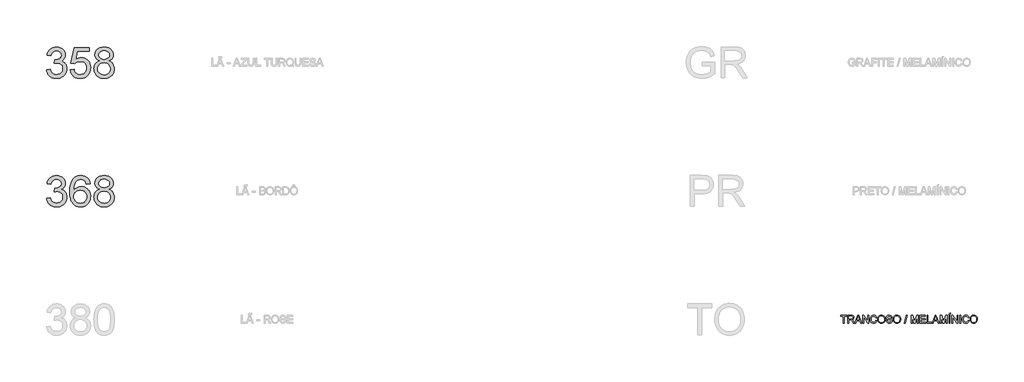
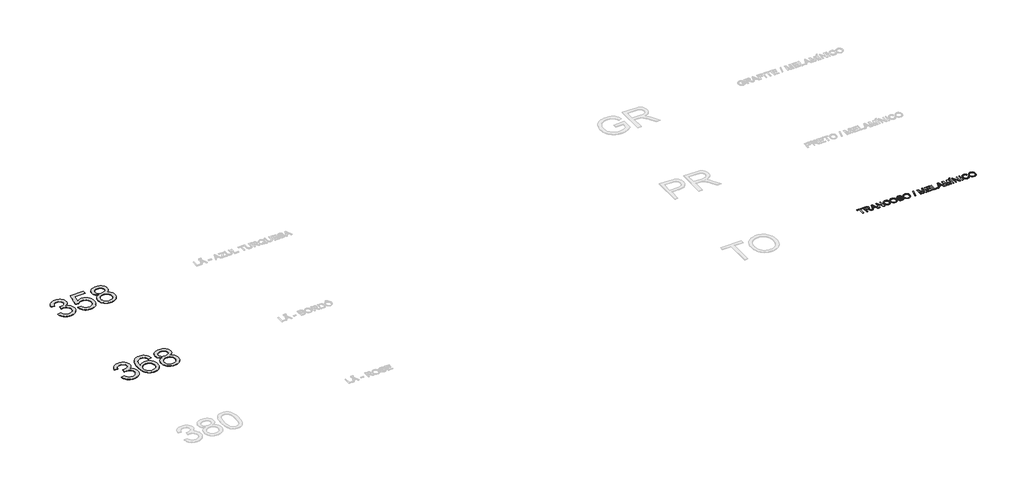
# One storey, part 25 of 67: 3 proxies.
"""IFC4 building model written with IfcOpenShell, lengths in millimetres."""

from ifc_helpers import new_model, si_unit, origin, origin_with_axes, place, context, project, spatial, polyline, outline, extrude, element, save

model = new_model("IFC4")

# Units and contexts
model_context = context("Model", 3, world=origin())
ifc_project = project(units=[si_unit("LENGTHUNIT", "METRE", prefix="MILLI")], contexts=[model_context])

# Site, building, storey
site = spatial("IfcSite", under=ifc_project)
building = spatial("IfcBuilding", under=site)
storey = spatial("IfcBuildingStorey", under=building, Name="Marelli - Linha COLAB - Planta Baixa", Elevation=0.0)

# Proxies
placement = place(None, origin())
element("IfcBuildingElementProxy", 1, Name="1200mm Arial", ObjectType="1200mm Arial", at=placement, inside=storey, context=model_context, shape_type="SweptSolid", body=[
    extrude(outline(polyline([(-181.1313792, -122668.6139517), (-30.446914, -122649.7783935), (-15.5384961, -122700.9691731), (3.287865, -122744.4712191), (26.0321693, -122780.2845313), (52.6944169, -122808.4091098), (83.8816131, -122829.6542951), (120.200763, -122844.8294274), (161.6518669, -122853.9345067), (208.2349245, -122856.9695332), (262.8286126, -122852.7940725), (311.5361887, -122840.2676906), (354.357653, -122819.3903874), (391.2930053, -122790.1621629), (421.0362646, -122754.7719149), (442.2814498, -122715.4085415), (455.028561, -122672.0720424), (459.277598, -122624.7624178), (455.0653492, -122579.7060705), (442.4286026, -122538.7148192), (421.3673584, -122501.7886639), (391.8816165, -122468.9276047), (355.9027574, -122441.9526574), (315.3621615, -122422.6848379), (270.2598289, -122411.1241462), (220.5957595, -122407.2705823), (172.9918294, -122411.3908606), (114.9400505, -122423.7516957), (131.7154695, -122273.0672304), (155.8485284, -122274.833064), (202.1832657, -122272.1291314), (246.12677, -122264.0173334), (287.6790413, -122250.49767), (326.8400797, -122231.5701414), (360.0598239, -122207.0324123), (383.7882126, -122176.6821477), (398.0252458, -122140.5193476), (402.7709235, -122098.5440119), (399.3312269, -122064.4689421), (389.0121369, -122033.465687), (371.8136536, -122005.5342465), (347.7357771, -121980.6746207), (318.231641, -121960.266367), (284.7543795, -121945.6890429), (247.3039924, -121936.9426485), (205.8804797, -121934.0271837), (164.5673317, -121936.9702397), (126.8594272, -121945.7994075), (92.7567662, -121960.5146873), (62.2593488, -121981.1160791), (36.121333, -122007.6035827), (15.096877, -122039.9771983), (-0.8140193, -122078.2369258), (-11.6113558, -122122.3827652), (-162.2958211, -122103.5472071), (-144.4351502, -122031.6078829), (-117.9292524, -121968.2402092), (-82.7781278, -121913.4441861), (-38.9817763, -121867.2198134), (12.0802447, -121830.5235844), (69.0283775, -121804.3119922), (131.8626223, -121788.5850369), (200.582979, -121783.3427185), (248.9134761, -121785.9270895), (295.3125927, -121793.6802025), (339.7803289, -121806.6020576), (382.3166846, -121824.6926547), (421.4409348, -121847.2622151), (455.6723544, -121873.6209601), (485.0109436, -121903.7688896), (509.4567021, -121937.7060036), (528.7061275, -121974.0803359), (542.4557171, -122011.5399201), (550.7054709, -122050.0847561), (553.4553888, -122089.7148441), (550.8434266, -122126.9812902), (543.0075401, -122162.5554791), (529.9477293, -122196.4374109), (511.6639941, -122228.6270854), (488.2666992, -122258.3703447), (459.8662092, -122284.9130307), (426.462524, -122308.2551433), (388.0556437, -122328.3966825), (438.2715361, -122344.1052437), (482.3805873, -122366.5092572), (520.3827974, -122395.608723), (552.2781664, -122431.4036412), (577.5148712, -122473.0110948), (595.541089, -122519.5481672), (606.3568197, -122571.0148583), (609.9620632, -122627.4111682), (608.1594414, -122666.3882656), (602.7515761, -122703.8570468), (593.7384672, -122739.8175118), (581.1201148, -122774.2696607), (564.8965188, -122807.2134933), (545.0676793, -122838.6490098), (521.6335962, -122868.5762101), (494.5942695, -122896.9950943), (464.8004265, -122922.9307749), (433.102794, -122945.4083648), (399.5013723, -122964.427864), (363.9961612, -122979.9892724), (326.5871609, -122992.09259), (287.2743712, -123000.7378169), (246.0577921, -123005.924953), (202.9374238, -123007.6539984), (126.7122744, -123001.7494924), (91.1380854, -122994.3688599), (57.2561537, -122984.0359743), (25.0664791, -122970.7508358), (-5.4309383, -122954.5134442), (-34.2360985, -122935.3237996), (-61.3490016, -122913.1819021), (-86.2040289, -122888.6947568), (-108.2355619, -122862.469369), (-127.4436005, -122834.5057389), (-143.8281449, -122804.8038663), (-157.3891949, -122773.3637513), (-168.1267507, -122740.1853938), (-181.1313792, -122668.6139517)])), origin_with_axes(), (0.0, 0.0, 1.0), 10.0),
    extrude(outline(polyline([(741.8109703, -122668.6139517), (892.4954355, -122649.7783935), (903.7526246, -122698.2192552), (920.1601616, -122740.2405761), (941.7180465, -122775.8423562), (968.4262793, -122805.0245955), (1000.2296778, -122827.7505057), (1037.0730596, -122843.9832988), (1078.9564248, -122853.7229746), (1125.8797733, -122856.9695332), (1183.2693645, -122852.4537817), (1233.889927, -122838.9065272), (1277.7414609, -122816.3277698), (1314.823966, -122784.7175093), (1344.3097079, -122745.6392444), (1365.3709521, -122700.6564734), (1378.0076987, -122649.7691965), (1382.2199475, -122592.9774135), (1378.2744131, -122539.3034304), (1366.4378099, -122491.5891356), (1346.7101379, -122449.8345291), (1319.0913971, -122414.039611), (1283.489617, -122385.3264213), (1239.8128272, -122364.817), (1188.0610275, -122352.5113473), (1128.234218, -122348.4094631), (1089.9468994, -122350.0465379), (1055.1360656, -122354.9577626), (1023.8017166, -122363.143137), (995.9438526, -122374.6026611), (948.6710162, -122404.6954083), (911.3309937, -122442.5872538), (760.6465284, -122423.7516957), (892.4954355, -121802.1782766), (1476.3977383, -121802.1782766), (1476.3977383, -121952.8627418), (1014.3379523, -121952.8627418), (949.8850268, -122284.8394543), (1003.0623692, -122246.7268796), (1057.5272986, -122219.503612), (1113.2798149, -122203.1696514), (1170.3199183, -122197.7249978), (1207.7588091, -122199.4126565), (1243.7031793, -122204.4756324), (1278.1530289, -122212.9139257), (1311.1083578, -122224.7275363), (1342.5691662, -122239.9164642), (1372.535454, -122258.4807093), (1401.0072211, -122280.4202718), (1427.9844677, -122305.7351516), (1452.5750798, -122333.7033803), (1473.8869436, -122363.6029895), (1491.9200592, -122395.4339791), (1506.6744265, -122429.1963492), (1518.1500455, -122464.8900998), (1526.3469162, -122502.5152308), (1531.2650386, -122542.0717424), (1532.9044127, -122583.5596344), (1526.9999067, -122661.6241938), (1519.6192742, -122698.6147284), (1509.2863886, -122734.2440996), (1496.0012501, -122768.5123075), (1479.7638585, -122801.4193519), (1460.5742139, -122832.965233), (1438.4323164, -122863.1499507), (1408.4315397, -122897.0180869), (1375.8188008, -122926.3704716), (1340.5940997, -122951.2071048), (1302.7574365, -122971.5279865), (1262.3088112, -122987.3331167), (1219.2482236, -122998.6224954), (1173.5756739, -123005.3961227), (1125.2911621, -123007.6539984), (1047.5301053, -123001.8506599), (1011.470772, -122994.5964869), (977.2922354, -122984.4406445), (944.9944955, -122971.383133), (914.5775523, -122955.4239522), (886.0414058, -122936.5631021), (859.386056, -122914.8005828), (835.0483627, -122890.6422321), (813.4651859, -122864.5938875), (794.6365255, -122836.6555493), (778.5623816, -122806.8272173), (765.2427541, -122775.1088915), (754.6776431, -122741.500572), (741.8109703, -122668.6139517)])), origin_with_axes(), (0.0, 0.0, 1.0), 10.0),
    extrude(outline(polyline([(1884.3052945, -122324.8650154), (1840.9595984, -122306.7652212), (1803.628773, -122285.1337599), (1772.3128181, -122259.9706314), (1747.0117339, -122231.2758358), (1727.5047911, -122199.3252845), (1713.5712606, -122164.3948891), (1705.2111422, -122126.4846495), (1702.4244361, -122085.5945657), (1708.494489, -122024.1398784), (1716.0820552, -121995.3301197), (1726.7046478, -121967.7987509), (1740.3622669, -121941.545772), (1757.0549124, -121916.571183), (1799.5452828, -121870.4571749), (1824.8325715, -121850.0397242), (1852.134014, -121832.3446002), (1881.4496105, -121817.371803), (1912.7793609, -121805.1213326), (1981.4813235, -121788.787372), (2058.2399018, -121783.3427185), (2135.3663621, -121788.9161307), (2204.5833595, -121805.6363674), (2236.2258096, -121818.1765449), (2265.890894, -121833.5034285), (2293.5786127, -121851.6170183), (2319.2889656, -121872.5173141), (2362.5518882, -121919.5326331), (2379.5480364, -121944.8613085), (2393.4539758, -121971.4039944), (2404.2697065, -121999.1606909), (2411.9952284, -122028.1313981), (2416.6305415, -122058.3161158), (2418.1756459, -122089.7148441), (2415.425728, -122129.160991), (2407.1759743, -122165.9767817), (2393.4263847, -122200.1622161), (2374.1769593, -122231.7172942), (2349.3357276, -122260.2189518), (2318.810719, -122285.2441245), (2282.6019336, -122306.7928124), (2240.7093714, -122324.8650154), (2290.235485, -122345.9354566), (2333.4524224, -122372.6528865), (2370.3601836, -122405.0173051), (2400.9587685, -122443.0287122), (2424.9722658, -122485.8409794), (2442.1247638, -122532.607978), (2452.4162626, -122583.3297081), (2455.8467622, -122638.0061697), (2454.145308, -122676.3670647), (2449.0409453, -122713.1644613), (2440.5336742, -122748.3983594), (2428.6234946, -122782.068759), (2413.3104065, -122814.1756601), (2394.59441, -122844.7190628), (2372.4755051, -122873.6989669), (2346.9536917, -122901.1153726), (2318.6543692, -122926.085363), (2288.202937, -122947.7260214), (2255.5993952, -122966.0373477), (2220.8437437, -122981.019342), (2183.9359825, -122992.6720042), (2144.8761117, -123000.9953343), (2103.6641312, -123005.9893324), (2060.300041, -123007.6539984), (2016.9359508, -123005.9824346), (1975.7239703, -123000.9677432), (1936.6640995, -122992.6099241), (1899.7563383, -122980.9089774), (1865.0006868, -122965.864903), (1832.397145, -122947.4777011), (1801.9457128, -122925.7473715), (1773.6463904, -122900.6739142), (1748.124577, -122873.1034579), (1726.005672, -122843.8821312), (1707.2896755, -122813.009934), (1691.9765874, -122780.4868664), (1680.0664078, -122746.3129283), (1671.5591367, -122710.4881198), (1666.454774, -122673.0124408), (1664.7533198, -122633.8858913), (1668.3217751, -122576.7170293), (1679.0271412, -122524.4042096), (1696.869418, -122476.9474322), (1721.8486054, -122434.3466971), (1753.4128806, -122397.3745566), (1791.0104205, -122366.8035628), (1834.6412252, -122342.6337157), (1884.3052945, -122324.8650154)]), holes=[polyline([(1853.1089013, -122090.0091496), (1856.4474304, -122124.553269), (1866.4630178, -122155.7864504), (1883.1556633, -122183.7086938), (1906.525367, -122208.3199993), (1936.2778234, -122228.4063562), (1972.1187268, -122242.753754), (2014.0480772, -122251.3621927), (2062.0658746, -122254.2316723), (2108.8972526, -122251.3805868), (2149.916095, -122242.8273304), (2185.122402, -122228.5719031), (2214.5161734, -122208.6143049), (2237.6927391, -122184.5180342), (2254.2474289, -122157.8465896), (2264.1802427, -122128.5999709), (2267.4911807, -122096.7781784), (2264.0698781, -122063.714784), (2253.8059705, -122033.3921106), (2236.6994577, -122005.810158), (2212.7503398, -121980.9689263), (2182.6943808, -121960.4319139), (2147.2673447, -121945.7626193), (2106.4692314, -121936.9610426), (2060.300041, -121934.0271837), (2013.7721657, -121936.8966633), (1972.7809144, -121945.5051019), (1937.3262871, -121959.8524998), (1907.4082838, -121979.9388567), (1883.652304, -122004.0351274), (1866.6837469, -122030.4122664), (1856.5026127, -122059.0702739), (1853.1089013, -122090.0091496)]), polyline([(1815.437785, -122628.5883906), (1817.0104805, -122657.6418712), (1821.7285671, -122686.2354992), (1840.6009135, -122742.0431979), (1855.6013018, -122767.9328933), (1875.4393384, -122790.7139859), (1900.1150233, -122810.3864756), (1929.6283563, -122826.9503624), (1961.8180309, -122840.0837496), (1994.5227403, -122849.4647405), (2027.7424844, -122855.093335), (2061.4772634, -122856.9695332), (2115.9605869, -122853.0239988), (2164.0427636, -122841.1873956), (2205.7237937, -122821.4597236), (2241.003677, -122793.8409828), (2269.0730733, -122760.133795), (2289.122642, -122722.140782), (2301.1523833, -122679.8619437), (2305.162297, -122633.2972801), (2301.0236246, -122585.9876555), (2288.6076072, -122542.9454621), (2267.914245, -122504.1706998), (2238.9435379, -122469.6633687), (2202.7071613, -122441.336455), (2160.2167909, -122421.1029453), (2111.4724265, -122408.9628395), (2056.4740683, -122404.9161375), (2002.7908881, -122408.9076572), (1955.3433078, -122420.8822161), (1914.1313273, -122440.8398143), (1879.1549466, -122468.7804519), (1851.2786884, -122502.7175659), (1831.3670754, -122540.6645937), (1819.4201076, -122582.6215353), (1815.437785, -122628.5883906)])]), origin_with_axes(), (0.0, 0.0, 1.0), 10.0),
])
element("IfcBuildingElementProxy", 2, Name="1200mm Arial", ObjectType="1200mm Arial", at=placement, inside=storey, context=model_context, shape_type="SweptSolid", body=[
    extrude(outline(polyline([(-181.1313792, -127668.6139517), (-30.446914, -127649.7783935), (-15.5384961, -127700.9691731), (3.287865, -127744.4712191), (26.0321693, -127780.2845313), (52.6944169, -127808.4091098), (83.8816131, -127829.6542951), (120.200763, -127844.8294274), (161.6518669, -127853.9345067), (208.2349245, -127856.9695332), (262.8286126, -127852.7940725), (311.5361887, -127840.2676906), (354.357653, -127819.3903874), (391.2930053, -127790.1621629), (421.0362646, -127754.7719149), (442.2814498, -127715.4085415), (455.028561, -127672.0720424), (459.277598, -127624.7624178), (455.0653492, -127579.7060705), (442.4286026, -127538.7148192), (421.3673584, -127501.7886639), (391.8816165, -127468.9276047), (355.9027574, -127441.9526574), (315.3621615, -127422.6848379), (270.2598289, -127411.1241462), (220.5957595, -127407.2705823), (172.9918294, -127411.3908606), (114.9400505, -127423.7516957), (131.7154695, -127273.0672304), (155.8485284, -127274.833064), (202.1832657, -127272.1291314), (246.12677, -127264.0173334), (287.6790413, -127250.49767), (326.8400797, -127231.5701414), (360.0598239, -127207.0324123), (383.7882126, -127176.6821477), (398.0252458, -127140.5193476), (402.7709235, -127098.5440119), (399.3312269, -127064.4689421), (389.0121369, -127033.465687), (371.8136536, -127005.5342465), (347.7357771, -126980.6746207), (318.231641, -126960.266367), (284.7543795, -126945.6890429), (247.3039924, -126936.9426485), (205.8804797, -126934.0271837), (164.5673317, -126936.9702397), (126.8594272, -126945.7994075), (92.7567662, -126960.5146873), (62.2593488, -126981.1160791), (36.121333, -127007.6035827), (15.096877, -127039.9771983), (-0.8140193, -127078.2369258), (-11.6113558, -127122.3827652), (-162.2958211, -127103.5472071), (-144.4351502, -127031.6078829), (-117.9292524, -126968.2402092), (-82.7781278, -126913.4441861), (-38.9817763, -126867.2198134), (12.0802447, -126830.5235844), (69.0283775, -126804.3119922), (131.8626223, -126788.5850369), (200.582979, -126783.3427185), (248.9134761, -126785.9270895), (295.3125927, -126793.6802025), (339.7803289, -126806.6020576), (382.3166846, -126824.6926547), (421.4409348, -126847.2622151), (455.6723544, -126873.6209601), (485.0109436, -126903.7688896), (509.4567021, -126937.7060036), (528.7061275, -126974.0803359), (542.4557171, -127011.5399201), (550.7054709, -127050.0847561), (553.4553888, -127089.7148441), (550.8434266, -127126.9812902), (543.0075401, -127162.5554791), (529.9477293, -127196.4374109), (511.6639941, -127228.6270854), (488.2666992, -127258.3703447), (459.8662092, -127284.9130307), (426.462524, -127308.2551433), (388.0556437, -127328.3966825), (438.2715361, -127344.1052437), (482.3805873, -127366.5092572), (520.3827974, -127395.608723), (552.2781664, -127431.4036412), (577.5148712, -127473.0110948), (595.541089, -127519.5481672), (606.3568197, -127571.0148583), (609.9620632, -127627.4111682), (608.1594414, -127666.3882656), (602.7515761, -127703.8570468), (593.7384672, -127739.8175118), (581.1201148, -127774.2696607), (564.8965188, -127807.2134933), (545.0676793, -127838.6490098), (521.6335962, -127868.5762101), (494.5942695, -127896.9950943), (464.8004265, -127922.9307749), (433.102794, -127945.4083648), (399.5013723, -127964.427864), (363.9961612, -127979.9892724), (326.5871609, -127992.09259), (287.2743712, -128000.7378169), (246.0577921, -128005.924953), (202.9374238, -128007.6539984), (126.7122744, -128001.7494924), (91.1380854, -127994.3688599), (57.2561537, -127984.0359743), (25.0664791, -127970.7508358), (-5.4309383, -127954.5134442), (-34.2360985, -127935.3237996), (-61.3490016, -127913.1819021), (-86.2040289, -127888.6947568), (-108.2355619, -127862.469369), (-127.4436005, -127834.5057389), (-143.8281449, -127804.8038663), (-157.3891949, -127773.3637513), (-168.1267507, -127740.1853938), (-181.1313792, -127668.6139517)])), origin_with_axes(), (0.0, 0.0, 1.0), 10.0),
    extrude(outline(polyline([(1514.0688546, -127103.5472071), (1363.3843893, -127122.3827652), (1352.3111413, -127082.0812927), (1339.1041777, -127047.7027202), (1323.7634985, -127019.2470479), (1306.2891037, -126996.7142757), (1273.897094, -126969.2886729), (1237.936629, -126949.6989567), (1198.4077086, -126937.9451269), (1155.3103329, -126934.0271837), (1119.7729321, -126936.3080521), (1085.265601, -126943.1506572), (1051.7883394, -126954.554999), (1019.3411475, -126970.5210776), (989.7358439, -126996.6315022), (962.7241084, -127028.1681863), (938.305941, -127065.1311297), (916.4813416, -127107.5203326), (898.4091386, -127158.1316981), (885.2481602, -127219.7611293), (876.9984065, -127292.4086263), (873.6598774, -127376.0741891), (902.3822641, -127338.2099347), (934.1028892, -127305.5512106), (968.8217525, -127278.0980167), (1006.538854, -127255.8503531), (1046.2425184, -127238.6610669), (1086.92107, -127226.3830053), (1128.5745089, -127219.0161683), (1171.2028351, -127216.560556), (1208.1013992, -127218.2390176), (1243.6020117, -127223.2744024), (1277.7046727, -127231.6667104), (1310.409382, -127243.4159416), (1341.7161398, -127258.5220961), (1371.624946, -127276.9851737), (1400.1358007, -127298.8051745), (1427.2487037, -127323.9820986), (1452.0117605, -127351.81697), (1473.4730764, -127381.6108131), (1491.6326514, -127413.3636278), (1506.4904855, -127447.0754142), (1518.0465786, -127482.7461721), (1526.3009309, -127520.3759017), (1531.2535423, -127559.9646029), (1532.9044127, -127601.5122757), (1529.7958099, -127656.4462547), (1520.4700013, -127709.4120649), (1504.926987, -127760.4097065), (1483.166767, -127809.4391794), (1455.9618934, -127854.6702707), (1424.0849186, -127894.2727675), (1387.5358423, -127928.2466698), (1346.3146648, -127956.5919775), (1301.3043027, -127978.9316116), (1253.3876728, -127994.8884932), (1202.5647752, -128004.4626221), (1148.8356098, -128007.6539984), (1102.8342655, -128005.5386769), (1059.0080236, -127999.1927125), (1017.3568839, -127988.6161052), (977.8808466, -127973.8088549), (940.5799116, -127954.7709616), (905.4540788, -127931.5024254), (872.5033483, -127904.0032463), (841.7277202, -127872.2734242), (813.895148, -127835.6875598), (789.7735854, -127793.6202536), (769.3630325, -127746.0715057), (752.6634892, -127693.0413161), (739.6749555, -127634.5296848), (730.3974314, -127570.5366117), (724.830917, -127501.062097), (722.9754121, -127426.1061404), (725.0355513, -127342.1784618), (731.2159688, -127264.1828803), (741.5166647, -127192.1193959), (755.9376389, -127125.9880088), (774.4788915, -127065.7887188), (797.1404224, -127011.521526), (823.9222316, -126963.1864303), (854.8243192, -126920.7834319), (884.8388915, -126888.5707647), (917.3458643, -126860.6531198), (952.3452376, -126837.0304971), (989.8370114, -126817.7028968), (1029.8211858, -126802.6703188), (1072.2977607, -126791.9327631), (1117.266736, -126785.4902296), (1164.728112, -126783.3427185), (1234.1290503, -126788.6586133), (1296.944901, -126804.6062978), (1353.175664, -126831.1857719), (1402.8213392, -126868.3970358), (1444.5391575, -126914.9892904), (1476.9863495, -126969.7117372), (1500.1629152, -127032.5643761), (1514.0688546, -127103.5472071)]), holes=[polyline([(873.6598774, -127599.157831), (875.8395782, -127632.9202011), (882.3786807, -127665.9284131), (893.2771848, -127698.182467), (908.5350905, -127729.6823629), (927.4074369, -127758.9473756), (949.1492628, -127784.4967801), (973.7605683, -127806.3305766), (1001.2413533, -127824.4487648), (1031.4168739, -127838.676601), (1064.1123863, -127848.8393411), (1099.3278903, -127854.9369852), (1137.0633859, -127856.9695332), (1189.440585, -127852.7572843), (1236.5018892, -127840.1205378), (1278.2472986, -127819.0592936), (1314.6768132, -127789.5735517), (1344.2269344, -127752.8589286), (1365.3341639, -127710.1110407), (1377.9985016, -127661.3298882), (1382.2199475, -127606.5154709), (1378.0536839, -127553.8439662), (1365.5548931, -127507.0769676), (1344.7235751, -127466.214475), (1315.55973, -127431.2564884), (1279.0198508, -127403.2514715), (1236.0604308, -127383.247888), (1186.68147, -127371.2457379), (1130.8829684, -127367.2450212), (1079.2047451, -127371.2457379), (1031.5916179, -127383.247888), (988.0435867, -127403.2514715), (948.5606516, -127431.2564884), (915.7915629, -127465.7546225), (892.3850709, -127505.2375576), (878.3411758, -127549.7052938), (873.6598774, -127599.157831)])]), origin_with_axes(), (0.0, 0.0, 1.0), 10.0),
    extrude(outline(polyline([(1884.3052945, -127324.8650154), (1840.9595984, -127306.7652212), (1803.628773, -127285.1337599), (1772.3128181, -127259.9706314), (1747.0117339, -127231.2758358), (1727.5047911, -127199.3252845), (1713.5712606, -127164.3948891), (1705.2111422, -127126.4846495), (1702.4244361, -127085.5945657), (1708.494489, -127024.1398784), (1716.0820552, -126995.3301197), (1726.7046478, -126967.7987509), (1740.3622669, -126941.545772), (1757.0549124, -126916.571183), (1799.5452828, -126870.4571749), (1824.8325715, -126850.0397242), (1852.134014, -126832.3446002), (1881.4496105, -126817.371803), (1912.7793609, -126805.1213326), (1981.4813235, -126788.787372), (2058.2399018, -126783.3427185), (2135.3663621, -126788.9161307), (2204.5833595, -126805.6363674), (2236.2258096, -126818.1765449), (2265.890894, -126833.5034285), (2293.5786127, -126851.6170182), (2319.2889656, -126872.5173141), (2362.5518882, -126919.5326331), (2379.5480364, -126944.8613085), (2393.4539758, -126971.4039944), (2404.2697065, -126999.1606909), (2411.9952284, -127028.1313981), (2416.6305415, -127058.3161158), (2418.1756459, -127089.7148441), (2415.425728, -127129.160991), (2407.1759743, -127165.9767817), (2393.4263847, -127200.1622161), (2374.1769593, -127231.7172942), (2349.3357276, -127260.2189518), (2318.810719, -127285.2441245), (2282.6019336, -127306.7928124), (2240.7093714, -127324.8650154), (2290.235485, -127345.9354566), (2333.4524224, -127372.6528865), (2370.3601836, -127405.0173051), (2400.9587685, -127443.0287122), (2424.9722658, -127485.8409794), (2442.1247638, -127532.607978), (2452.4162626, -127583.3297081), (2455.8467622, -127638.0061697), (2454.145308, -127676.3670647), (2449.0409453, -127713.1644613), (2440.5336742, -127748.3983594), (2428.6234946, -127782.068759), (2413.3104065, -127814.1756601), (2394.59441, -127844.7190628), (2372.4755051, -127873.6989669), (2346.9536917, -127901.1153726), (2318.6543692, -127926.085363), (2288.202937, -127947.7260214), (2255.5993952, -127966.0373477), (2220.8437437, -127981.019342), (2183.9359825, -127992.6720042), (2144.8761117, -128000.9953343), (2103.6641312, -128005.9893324), (2060.300041, -128007.6539984), (2016.9359508, -128005.9824346), (1975.7239703, -128000.9677432), (1936.6640995, -127992.6099241), (1899.7563383, -127980.9089774), (1865.0006868, -127965.864903), (1832.397145, -127947.4777011), (1801.9457128, -127925.7473715), (1773.6463904, -127900.6739142), (1748.124577, -127873.1034579), (1726.005672, -127843.8821312), (1707.2896755, -127813.009934), (1691.9765874, -127780.4868664), (1680.0664078, -127746.3129283), (1671.5591367, -127710.4881198), (1666.454774, -127673.0124408), (1664.7533198, -127633.8858913), (1668.3217751, -127576.7170293), (1679.0271412, -127524.4042096), (1696.869418, -127476.9474322), (1721.8486054, -127434.3466971), (1753.4128806, -127397.3745566), (1791.0104205, -127366.8035628), (1834.6412252, -127342.6337157), (1884.3052945, -127324.8650154)]), holes=[polyline([(1853.1089013, -127090.0091496), (1856.4474304, -127124.553269), (1866.4630178, -127155.7864504), (1883.1556633, -127183.7086938), (1906.525367, -127208.3199993), (1936.2778234, -127228.4063562), (1972.1187268, -127242.753754), (2014.0480772, -127251.3621927), (2062.0658746, -127254.2316723), (2108.8972526, -127251.3805868), (2149.916095, -127242.8273304), (2185.122402, -127228.5719031), (2214.5161734, -127208.6143049), (2237.6927391, -127184.5180342), (2254.2474289, -127157.8465896), (2264.1802427, -127128.5999709), (2267.4911807, -127096.7781784), (2264.0698781, -127063.714784), (2253.8059705, -127033.3921106), (2236.6994577, -127005.810158), (2212.7503398, -126980.9689263), (2182.6943808, -126960.4319139), (2147.2673447, -126945.7626193), (2106.4692314, -126936.9610426), (2060.300041, -126934.0271837), (2013.7721657, -126936.8966633), (1972.7809144, -126945.5051019), (1937.3262871, -126959.8524998), (1907.4082838, -126979.9388567), (1883.652304, -127004.0351274), (1866.6837469, -127030.4122664), (1856.5026127, -127059.0702739), (1853.1089013, -127090.0091496)]), polyline([(1815.437785, -127628.5883906), (1817.0104805, -127657.6418712), (1821.7285671, -127686.2354992), (1840.6009135, -127742.0431979), (1855.6013018, -127767.9328933), (1875.4393384, -127790.7139859), (1900.1150233, -127810.3864756), (1929.6283563, -127826.9503624), (1961.8180309, -127840.0837496), (1994.5227403, -127849.4647405), (2027.7424844, -127855.093335), (2061.4772634, -127856.9695332), (2115.9605869, -127853.0239988), (2164.0427636, -127841.1873956), (2205.7237937, -127821.4597236), (2241.003677, -127793.8409828), (2269.0730733, -127760.133795), (2289.122642, -127722.140782), (2301.1523833, -127679.8619437), (2305.162297, -127633.2972801), (2301.0236246, -127585.9876555), (2288.6076072, -127542.9454621), (2267.914245, -127504.1706998), (2238.9435379, -127469.6633687), (2202.7071613, -127441.336455), (2160.2167909, -127421.1029453), (2111.4724265, -127408.9628395), (2056.4740683, -127404.9161375), (2002.7908881, -127408.9076572), (1955.3433078, -127420.8822161), (1914.1313273, -127440.8398143), (1879.1549466, -127468.7804519), (1851.2786884, -127502.7175659), (1831.3670754, -127540.6645937), (1819.4201076, -127582.6215353), (1815.437785, -127628.5883906)])]), origin_with_axes(), (0.0, 0.0, 1.0), 10.0),
])
element("IfcBuildingElementProxy", 3, Name="300mm Arial", ObjectType="300mm Arial", at=placement, inside=storey, context=model_context, shape_type="SweptSolid", body=[
    extrude(outline(polyline([(30833.2139715, -132530.5663201), (30833.2139715, -132266.8685059), (30734.3272912, -132266.8685059), (30734.3272912, -132229.1973896), (30969.7717681, -132229.1973896), (30969.7717681, -132266.8685059), (30870.8850878, -132266.8685059), (30870.8850878, -132530.5663201), (30833.2139715, -132530.5663201)])), origin_with_axes(), (0.0, 0.0, 1.0), 10.0),
    extrude(outline(polyline([(31012.1517739, -132530.5663201), (31012.1517739, -132229.1973896), (31142.0141182, -132229.1973896), (31176.9169225, -132231.2299376), (31202.3099772, -132237.3275817), (31220.8696239, -132248.5847708), (31235.272204, -132266.0959537), (31244.5152391, -132287.8101885), (31247.5962508, -132311.6765329), (31242.4918882, -132341.3646099), (31227.1788001, -132365.9759154), (31215.5790209, -132376.0052983), (31201.1971342, -132384.0205273), (31164.0870379, -132394.0085235), (31185.4977701, -132410.1217548), (31216.0319757, -132448.8965171), (31266.2846562, -132530.5663201), (31222.5066988, -132530.5663201), (31183.2904781, -132468.0999573), (31154.9635645, -132426.750021), (31135.0611485, -132407.2154871), (31117.1452954, -132400.0417882), (31095.2931048, -132398.717413), (31049.8228902, -132398.717413), (31049.8228902, -132530.5663201), (31012.1517739, -132530.5663201)]), holes=[polyline([(31049.8228902, -132361.0462967), (31134.1414435, -132361.0462967), (31158.3572759, -132359.7127245), (31177.1468488, -132355.7120078), (31191.2919115, -132348.7774322), (31201.5742132, -132338.6422832), (31207.8374042, -132326.3826157), (31209.9251345, -132313.0744845), (31205.9428119, -132294.6987789), (31193.9958441, -132279.8915286), (31173.4404377, -132270.1242616), (31143.632799, -132266.8685059), (31049.8228902, -132266.8685059), (31049.8228902, -132361.0462967)])]), origin_with_axes(), (0.0, 0.0, 1.0), 10.0),
    extrude(outline(polyline([(31278.424762, -132530.5663201), (31398.7221745, -132229.1973896), (31430.8014844, -132229.1973896), (31551.0988969, -132530.5663201), (31511.294065, -132530.5663201), (31476.7867338, -132436.3885293), (31352.6633487, -132436.3885293), (31318.2295939, -132530.5663201), (31278.424762, -132530.5663201)]), holes=[polyline([(31366.4957117, -132398.717413), (31463.0279472, -132398.717413), (31435.878256, -132324.6259792), (31414.7618294, -132266.8685059), (31395.9998477, -132318.1512561), (31366.4957117, -132398.717413)])]), origin_with_axes(), (0.0, 0.0, 1.0), 10.0),
    extrude(outline(polyline([(31591.3451871, -132530.5663201), (31591.3451871, -132229.1973896), (31631.6650538, -132229.1973896), (31789.1185477, -132467.9528045), (31789.1185477, -132229.1973896), (31826.789664, -132229.1973896), (31826.789664, -132530.5663201), (31786.4697974, -132530.5663201), (31629.0163034, -132291.7373288), (31629.0163034, -132530.5663201), (31591.3451871, -132530.5663201)])), origin_with_axes(), (0.0, 0.0, 1.0), 10.0),
    extrude(outline(polyline([(32104.6141468, -132423.4390831), (32142.2852631, -132433.1511677), (32134.8310542, -132456.5783531), (32124.9028388, -132477.0486868), (32112.5006171, -132494.5621691), (32097.6243889, -132509.1187997), (32080.6098466, -132520.5622291), (32061.7926826, -132528.7361071), (32041.1728967, -132533.640434), (32018.7504891, -132535.2752096), (31975.0553052, -132530.3271968), (31940.354836, -132515.4831583), (31913.7569677, -132491.2581289), (31894.3695866, -132458.1671434), (31882.5329834, -132419.2636224), (31878.587449, -132377.6009865), (31883.0480182, -132333.6574821), (31896.4297257, -132295.7104543), (31918.0335959, -132264.9647166), (31947.1606529, -132242.6250824), (31981.7047722, -132229.0226457), (32019.5598295, -132224.4885001), (32060.8637805, -132230.3562179), (32078.8325167, -132237.6908652), (32095.0124267, -132247.9593714), (32109.1367961, -132260.8904235), (32120.9389103, -132276.2127086), (32137.5763736, -132314.0309777), (32099.9052573, -132323.0072984), (32086.8454464, -132295.5357104), (32069.0031697, -132276.6909552), (32046.1576978, -132265.7924511), (32018.0883015, -132262.1596164), (31985.7330801, -132266.1879242), (31959.1536059, -132278.2728478), (31938.9844755, -132297.1451941), (31925.8602853, -132321.5357704), (31918.6589953, -132349.1085259), (31916.2585653, -132377.5274101), (31919.1004537, -132412.3290468), (31927.6261189, -132442.421794), (31942.1574577, -132466.6560205), (31963.0163669, -132483.8820949), (31988.0231455, -132494.1735937), (32014.9980928, -132497.6040933), (32046.4428063, -132492.931992), (32072.6452014, -132478.9156879), (32092.4280557, -132455.702334), (32104.6141468, -132423.4390831)])), origin_with_axes(), (0.0, 0.0, 1.0), 10.0),
    extrude(outline(polyline([(32179.9563794, -132383.8549804), (32182.467174, -132348.5061192), (32189.9995579, -132317.213157), (32202.553531, -132289.9760937), (32220.1290933, -132266.7949295), (32241.6731826, -132248.2858666), (32266.1327368, -132235.0651074), (32293.5077558, -132227.1326519), (32323.7982395, -132224.4885001), (32363.3271599, -132229.454907), (32398.7725901, -132244.3541278), (32428.2031498, -132268.1376988), (32449.6874583, -132299.7571563), (32462.8208455, -132337.68579), (32467.1986413, -132380.3968896), (32462.5909193, -132423.6782064), (32448.7677533, -132462.140269), (32426.4924985, -132493.8149087), (32396.52851, -132516.733957), (32361.3865824, -132530.6398965), (32323.5775103, -132535.2752096), (32283.4415847, -132530.1524528), (32247.7938193, -132514.7841825), (32218.4368361, -132490.5591531), (32197.1732568, -132458.8661192), (32184.2605988, -132422.3998164), (32179.9563794, -132383.8549804)]), holes=[polyline([(32217.6274957, -132384.2228624), (32219.5105917, -132409.1974513), (32225.1598796, -132431.3669401), (32234.5753594, -132450.7313286), (32247.7570311, -132467.2906169), (32263.7805913, -132480.5527628), (32281.7217363, -132490.0257242), (32301.5804663, -132495.709501), (32323.3567811, -132497.6040933), (32345.5055765, -132495.6911069), (32365.5988312, -132489.9521478), (32383.6365453, -132480.3872159), (32399.6187187, -132466.9963113), (32412.7038215, -132450.0875351), (32422.0503234, -132429.9689885), (32427.6582246, -132406.6406715), (32429.5275249, -132380.102584), (32426.3269516, -132346.7540812), (32416.7252315, -132317.9305269), (32400.9706851, -132294.358488), (32379.3116326, -132276.7645316), (32353.1828139, -132265.8108452), (32324.0189687, -132262.1596164), (32302.9991112, -132263.9185522), (32283.496767, -132269.1953595), (32265.5119359, -132277.9900385), (32249.0446181, -132290.302589), (32235.2996271, -132306.7262208), (32225.4817763, -132327.8541437), (32219.5910659, -132353.6863575), (32217.6274957, -132384.2228624)])]), origin_with_axes(), (0.0, 0.0, 1.0), 10.0),
    extrude(outline(polyline([(32504.8697576, -132426.9707502), (32542.5408739, -132426.9707502), (32546.8634873, -132447.8756446), (32554.6809797, -132464.6786547), (32566.8762678, -132478.0143771), (32584.3322685, -132488.517408), (32605.6694242, -132495.332422), (32629.5081775, -132497.6040933), (32650.4958453, -132495.884245), (32668.871551, -132490.7247), (32683.7615748, -132482.5577197), (32694.2921969, -132471.8155654), (32700.5553878, -132459.4823216), (32702.6431182, -132446.5420724), (32701.0796197, -132433.932917), (32696.3891242, -132423.0344129), (32686.8609806, -132413.7361954), (32670.7845374, -132405.9279001), (32615.9333319, -132391.5437141), (32579.9268816, -132382.0247675), (32556.8882717, -132372.9656733), (32538.135487, -132360.2921386), (32524.8457499, -132344.9330653), (32516.9270899, -132327.2195472), (32514.2875366, -132307.4826782), (32517.5524893, -132285.4189555), (32527.3473475, -132264.845155), (32543.4145936, -132247.4075484), (32565.4967104, -132234.7524077), (32592.0026081, -132227.054477), (32621.3411972, -132224.4885001), (32653.1262016, -132227.1740386), (32680.9380804, -132235.2306543), (32703.7835523, -132248.4928003), (32720.6693359, -132266.7949295), (32731.3563079, -132288.9966079), (32735.6053449, -132313.9574013), (32697.9342286, -132313.9574013), (32691.0180471, -132291.4798114), (32676.5970729, -132275.2562154), (32654.0643007, -132265.4337661), (32622.8127252, -132262.1596164), (32590.8253857, -132265.3969779), (32568.8812247, -132275.1090626), (32556.1892959, -132289.4012781), (32551.9586529, -132306.3790322), (32554.9568912, -132320.8551887), (32563.951606, -132332.4986539), (32585.2151853, -132342.9097143), (32625.4614756, -132353.541504), (32666.9953528, -132363.6398648), (32692.1216931, -132372.4506385), (32713.5968046, -132386.1174547), (32728.5787988, -132402.9848441), (32737.3803756, -132422.868866), (32740.3142345, -132445.5855792), (32736.9389172, -132468.8081301), (32726.8129652, -132490.6511236), (32710.350246, -132509.4498935), (32687.9646266, -132523.539774), (32661.0448616, -132532.3413507), (32630.9797055, -132535.2752096), (32594.0719443, -132532.1114244), (32563.6940886, -132522.620069), (32539.4966504, -132506.764355), (32521.1301417, -132484.5074943), (32509.3395238, -132457.3945912), (32504.8697576, -132426.9707502)])), origin_with_axes(), (0.0, 0.0, 1.0), 10.0),
    extrude(outline(polyline([(32782.6942403, -132383.8549804), (32785.2050349, -132348.5061192), (32792.7374188, -132317.213157), (32805.2913919, -132289.9760937), (32822.8669542, -132266.7949295), (32844.4110435, -132248.2858666), (32868.8705977, -132235.0651074), (32896.2456167, -132227.1326519), (32926.5361004, -132224.4885001), (32966.0650208, -132229.454907), (33001.510451, -132244.3541278), (33030.9410107, -132268.1376988), (33052.4253192, -132299.7571563), (33065.5587064, -132337.68579), (33069.9365021, -132380.3968896), (33065.3287802, -132423.6782064), (33051.5056142, -132462.140269), (33029.2303594, -132493.8149087), (32999.2663709, -132516.733957), (32964.1244433, -132530.6398965), (32926.3153712, -132535.2752096), (32886.1794456, -132530.1524528), (32850.5316802, -132514.7841825), (32821.174697, -132490.5591531), (32799.9111177, -132458.8661192), (32786.9984597, -132422.3998164), (32782.6942403, -132383.8549804)]), holes=[polyline([(32820.3653566, -132384.2228624), (32822.2484526, -132409.1974513), (32827.8977405, -132431.3669401), (32837.3132203, -132450.7313286), (32850.494892, -132467.2906169), (32866.5184522, -132480.5527628), (32884.4595972, -132490.0257242), (32904.3183272, -132495.709501), (32926.094642, -132497.6040933), (32948.2434374, -132495.6911069), (32968.3366921, -132489.9521478), (32986.3744062, -132480.3872159), (33002.3565796, -132466.9963113), (33015.4416824, -132450.0875351), (33024.7881843, -132429.9689885), (33030.3960855, -132406.6406715), (33032.2653858, -132380.102584), (33029.0648125, -132346.7540812), (33019.4630924, -132317.9305269), (33003.708546, -132294.358488), (32982.0494935, -132276.7645316), (32955.9206748, -132265.8108452), (32926.7568296, -132262.1596164), (32905.7369721, -132263.9185522), (32886.2346279, -132269.1953595), (32868.2497968, -132277.9900385), (32851.782479, -132290.302589), (32838.037488, -132306.7262208), (32828.2196372, -132327.8541437), (32822.3289268, -132353.6863575), (32820.3653566, -132384.2228624)])]), origin_with_axes(), (0.0, 0.0, 1.0), 10.0),
    extrude(outline(polyline([(33206.4942988, -132530.5663201), (33291.2543104, -132229.1973896), (33325.2466068, -132229.1973896), (33240.4865951, -132530.5663201), (33206.4942988, -132530.5663201)])), origin_with_axes(), (0.0, 0.0, 1.0), 10.0),
    extrude(outline(polyline([(33474.9010024, -132530.5663201), (33474.9010024, -132229.1973896), (33539.72181, -132229.1973896), (33601.3788324, -132441.6124536), (33613.8132438, -132485.9790223), (33627.2777248, -132437.9336337), (33687.9046776, -132229.1973896), (33752.7254852, -132229.1973896), (33752.7254852, -132530.5663201), (33715.0543689, -132530.5663201), (33715.0543689, -132266.8685059), (33639.3442543, -132530.5663201), (33588.2822334, -132530.5663201), (33512.5721187, -132266.8685059), (33512.5721187, -132530.5663201), (33474.9010024, -132530.5663201)])), origin_with_axes(), (0.0, 0.0, 1.0), 10.0),
    extrude(outline(polyline([(33818.6499387, -132530.5663201), (33818.6499387, -132229.1973896), (34035.2588575, -132229.1973896), (34035.2588575, -132266.8685059), (33856.321055, -132266.8685059), (33856.321055, -132356.3374072), (34025.8410784, -132356.3374072), (34025.8410784, -132394.0085235), (33856.321055, -132394.0085235), (33856.321055, -132492.8952038), (34039.967747, -132492.8952038), (34039.967747, -132530.5663201), (33818.6499387, -132530.5663201)])), origin_with_axes(), (0.0, 0.0, 1.0), 10.0),
    extrude(outline(polyline([(34096.4744215, -132530.5663201), (34096.4744215, -132229.1973896), (34134.1455378, -132229.1973896), (34134.1455378, -132492.8952038), (34284.830003, -132492.8952038), (34284.830003, -132530.5663201), (34096.4744215, -132530.5663201)])), origin_with_axes(), (0.0, 0.0, 1.0), 10.0),
    extrude(outline(polyline([(34292.1140665, -132530.5663201), (34412.4114789, -132229.1973896), (34444.4907889, -132229.1973896), (34564.7882014, -132530.5663201), (34524.9833695, -132530.5663201), (34490.4760383, -132436.3885293), (34366.3526532, -132436.3885293), (34331.9188984, -132530.5663201), (34292.1140665, -132530.5663201)]), holes=[polyline([(34380.1850162, -132398.717413), (34476.7172517, -132398.717413), (34449.5675605, -132324.6259792), (34428.4511339, -132266.8685059), (34409.6891522, -132318.1512561), (34380.1850162, -132398.717413)])]), origin_with_axes(), (0.0, 0.0, 1.0), 10.0),
    extrude(outline(polyline([(34605.0344916, -132530.5663201), (34605.0344916, -132229.1973896), (34669.8552992, -132229.1973896), (34731.5123216, -132441.6124536), (34743.946733, -132485.9790223), (34757.411214, -132437.9336337), (34818.0381668, -132229.1973896), (34882.8589744, -132229.1973896), (34882.8589744, -132530.5663201), (34845.1878581, -132530.5663201), (34845.1878581, -132266.8685059), (34769.4777435, -132530.5663201), (34718.4157225, -132530.5663201), (34642.7056079, -132266.8685059), (34642.7056079, -132530.5663201), (34605.0344916, -132530.5663201)])), origin_with_axes(), (0.0, 0.0, 1.0), 10.0),
    extrude(outline(polyline([(34953.4923175, -132530.5663201), (34953.4923175, -132229.1973896), (34991.1634338, -132229.1973896), (34991.1634338, -132530.5663201), (34953.4923175, -132530.5663201)])), origin_with_axes(), (0.0, 0.0, 1.0), 10.0),
    extrude(outline(polyline([(34944.0745384, -132210.3618315), (34972.3278756, -132153.855157), (35019.416771, -132153.855157), (34972.3278756, -132210.3618315), (34944.0745384, -132210.3618315)])), origin_with_axes(), (0.0, 0.0, 1.0), 10.0),
    extrude(outline(polyline([(35066.5056664, -132530.5663201), (35066.5056664, -132229.1973896), (35106.825533, -132229.1973896), (35264.279027, -132467.9528045), (35264.279027, -132229.1973896), (35301.9501433, -132229.1973896), (35301.9501433, -132530.5663201), (35261.6302766, -132530.5663201), (35104.1767827, -132291.7373288), (35104.1767827, -132530.5663201), (35066.5056664, -132530.5663201)])), origin_with_axes(), (0.0, 0.0, 1.0), 10.0),
    extrude(outline(polyline([(35372.5834864, -132530.5663201), (35372.5834864, -132229.1973896), (35410.2546027, -132229.1973896), (35410.2546027, -132530.5663201), (35372.5834864, -132530.5663201)])), origin_with_axes(), (0.0, 0.0, 1.0), 10.0),
    extrude(outline(polyline([(35697.4968645, -132423.4390831), (35735.1679808, -132433.1511677), (35727.7137719, -132456.5783531), (35717.7855565, -132477.0486868), (35705.3833348, -132494.5621691), (35690.5071066, -132509.1187997), (35673.4925643, -132520.5622291), (35654.6754003, -132528.7361071), (35634.0556144, -132533.640434), (35611.6332068, -132535.2752096), (35567.9380228, -132530.3271968), (35533.2375537, -132515.4831583), (35506.6396854, -132491.2581289), (35487.2523043, -132458.1671434), (35475.4157011, -132419.2636224), (35471.4701667, -132377.6009865), (35475.9307359, -132333.6574821), (35489.3124434, -132295.7104543), (35510.9163136, -132264.9647166), (35540.0433706, -132242.6250824), (35574.5874899, -132229.0226457), (35612.4425472, -132224.4885001), (35653.7464982, -132230.3562179), (35671.7152344, -132237.6908652), (35687.8951444, -132247.9593714), (35702.0195138, -132260.8904235), (35713.821628, -132276.2127086), (35730.4590913, -132314.0309777), (35692.787975, -132323.0072984), (35679.7281641, -132295.5357104), (35661.8858874, -132276.6909552), (35639.0404155, -132265.7924511), (35610.9710192, -132262.1596164), (35578.6157978, -132266.1879242), (35552.0363236, -132278.2728478), (35531.8671932, -132297.1451941), (35518.743003, -132321.5357704), (35511.541713, -132349.1085259), (35509.141283, -132377.5274101), (35511.9831714, -132412.3290468), (35520.5088366, -132442.421794), (35535.0401754, -132466.6560205), (35555.8990846, -132483.8820949), (35580.9058632, -132494.1735937), (35607.8808105, -132497.6040933), (35639.325524, -132492.931992), (35665.5279191, -132478.9156879), (35685.3107734, -132455.702334), (35697.4968645, -132423.4390831)])), origin_with_axes(), (0.0, 0.0, 1.0), 10.0),
    extrude(outline(polyline([(35772.8390971, -132383.8549804), (35775.3498917, -132348.5061192), (35782.8822756, -132317.213157), (35795.4362487, -132289.9760937), (35813.011811, -132266.7949295), (35834.5559003, -132248.2858666), (35859.0154545, -132235.0651074), (35886.3904734, -132227.1326519), (35916.6809572, -132224.4885001), (35956.2098776, -132229.454907), (35991.6553078, -132244.3541278), (36021.0858675, -132268.1376988), (36042.570176, -132299.7571563), (36055.7035632, -132337.68579), (36060.0813589, -132380.3968896), (36055.473637, -132423.6782064), (36041.650471, -132462.140269), (36019.3752162, -132493.8149087), (35989.4112277, -132516.733957), (35954.2693001, -132530.6398965), (35916.460228, -132535.2752096), (35876.3243024, -132530.1524528), (35840.676537, -132514.7841825), (35811.3195538, -132490.5591531), (35790.0559745, -132458.8661192), (35777.1433165, -132422.3998164), (35772.8390971, -132383.8549804)]), holes=[polyline([(35810.5102134, -132384.2228624), (35812.3933094, -132409.1974513), (35818.0425973, -132431.3669401), (35827.4580771, -132450.7313286), (35840.6397488, -132467.2906169), (35856.663309, -132480.5527628), (35874.604454, -132490.0257242), (35894.463184, -132495.709501), (35916.2394988, -132497.6040933), (35938.3882942, -132495.6911069), (35958.4815489, -132489.9521478), (35976.519263, -132480.3872159), (35992.5014364, -132466.9963113), (36005.5865391, -132450.0875351), (36014.9330411, -132429.9689885), (36020.5409423, -132406.6406715), (36022.4102426, -132380.102584), (36019.2096693, -132346.7540812), (36009.6079492, -132317.9305269), (35993.8534028, -132294.358488), (35972.1943503, -132276.7645316), (35946.0655316, -132265.8108452), (35916.9016864, -132262.1596164), (35895.8818289, -132263.9185522), (35876.3794847, -132269.1953595), (35858.3946536, -132277.9900385), (35841.9273358, -132290.302589), (35828.1823448, -132306.7262208), (35818.364494, -132327.8541437), (35812.4737836, -132353.6863575), (35810.5102134, -132384.2228624)])]), origin_with_axes(), (0.0, 0.0, 1.0), 10.0),
])

save(model, "model.ifc")
